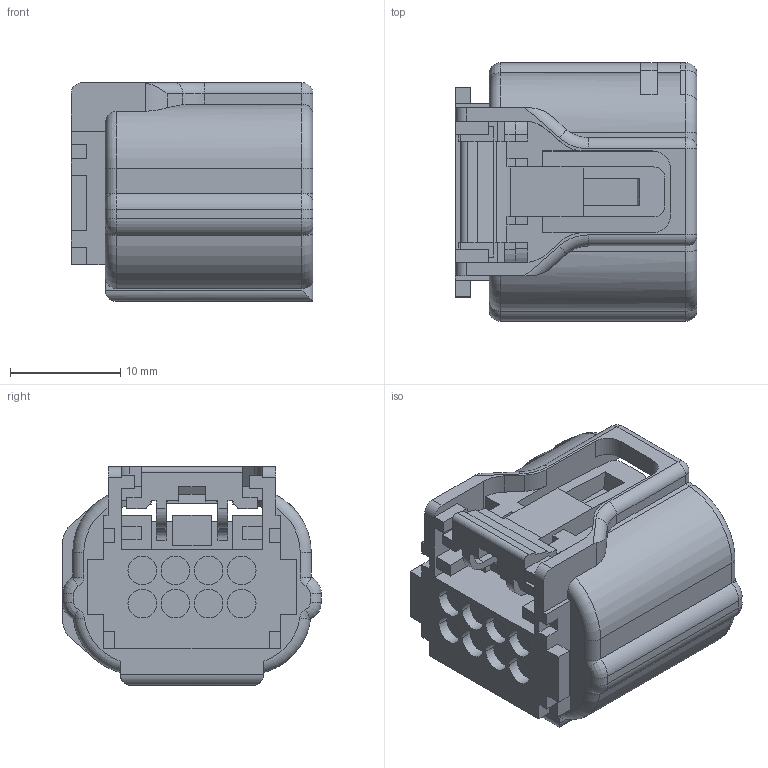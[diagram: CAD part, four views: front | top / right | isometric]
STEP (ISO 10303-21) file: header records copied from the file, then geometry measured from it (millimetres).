
FILE_DESCRIPTION(('CATIA V5 STEP Exchange'),'2;1');
FILE_NAME('N:\C-DAM_MyDesk\ENV\11093U\1設\6189-1240.stp','2013-02-28T03:08:10+00:00',('none'),('none'),'CATIA Version 5 Release 20 SP 4 (IN-10)','CATIA V5 STEP AP203','none');
FILE_SCHEMA(('CONFIG_CONTROL_DESIGN'));
Length unit declared in the file: millimetre
Products named in the file (1): 6189-1240
Bounding box: 21.9 x 23.4 x 19.8 mm (x, y, z)
Volume: 5355.6 mm3; surface area: 4729.4 mm2
Topology: 1 solids, 1 shells, 358 faces, 988 edges, 629 vertices
Faces by surface type: plane 223, cylinder 96, torus 23, cone 6, revolution 6, bspline 2, sphere 2
Entity records: 10857 total; most frequent: CARTESIAN_POINT 2197, ORIENTED_EDGE 1964, DIRECTION 1464, EDGE_CURVE 982, VECTOR 709, LINE 709, VERTEX_POINT 629, AXIS2_PLACEMENT_3D 490
